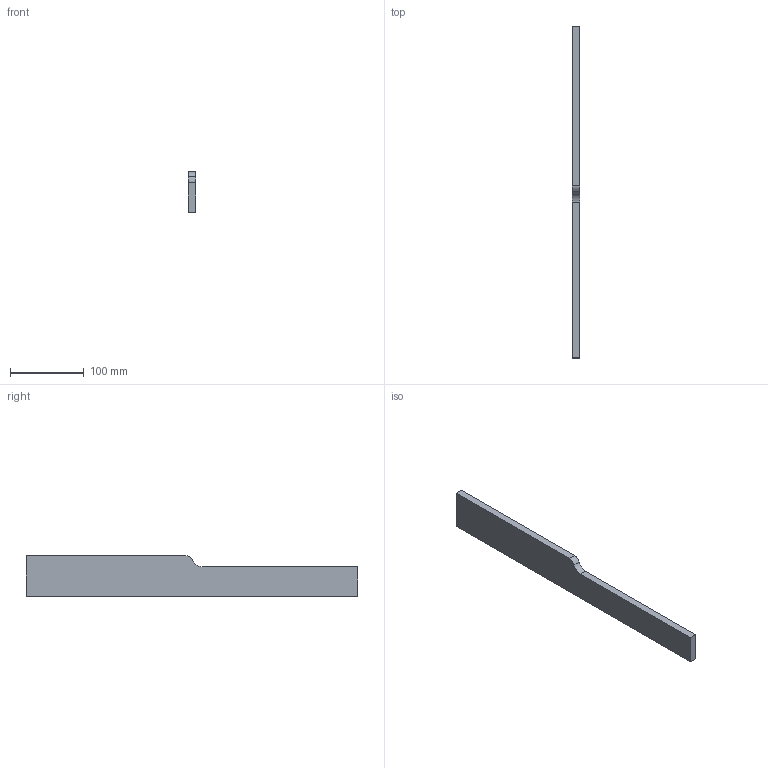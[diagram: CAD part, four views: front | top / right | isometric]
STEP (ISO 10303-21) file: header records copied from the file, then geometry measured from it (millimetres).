
FILE_DESCRIPTION(('CATIA V5 STEP Exchange'),'2;1');
FILE_NAME('E:\CNC\CNC_REV3_PLAN_FINAL\FICHIERS POUR USINAGE DES PIECES PORTIQUE\PIECES_AVEC_TROU\Axe_Z_Side.stp','2016-09-06T20:12:40+00:00',('none'),('none'),'CATIA Version 5 Release 19 SP 2 (IN-10)','CATIA V5 STEP AP203','none');
FILE_SCHEMA(('CONFIG_CONTROL_DESIGN'));
Length unit declared in the file: millimetre
Products named in the file (1): Axe_Z_Cote
Bounding box: 10 x 450 x 55 mm (x, y, z)
Volume: 214056.9 mm3; surface area: 52823.6 mm2
Topology: 1 solids, 1 shells, 9 faces, 21 edges, 14 vertices
Faces by surface type: plane 7, cylinder 2
Entity records: 297 total; most frequent: CARTESIAN_POINT 45, ORIENTED_EDGE 42, DIRECTION 39, EDGE_CURVE 21, VECTOR 17, LINE 17, AXIS2_PLACEMENT_3D 14, VERTEX_POINT 14
